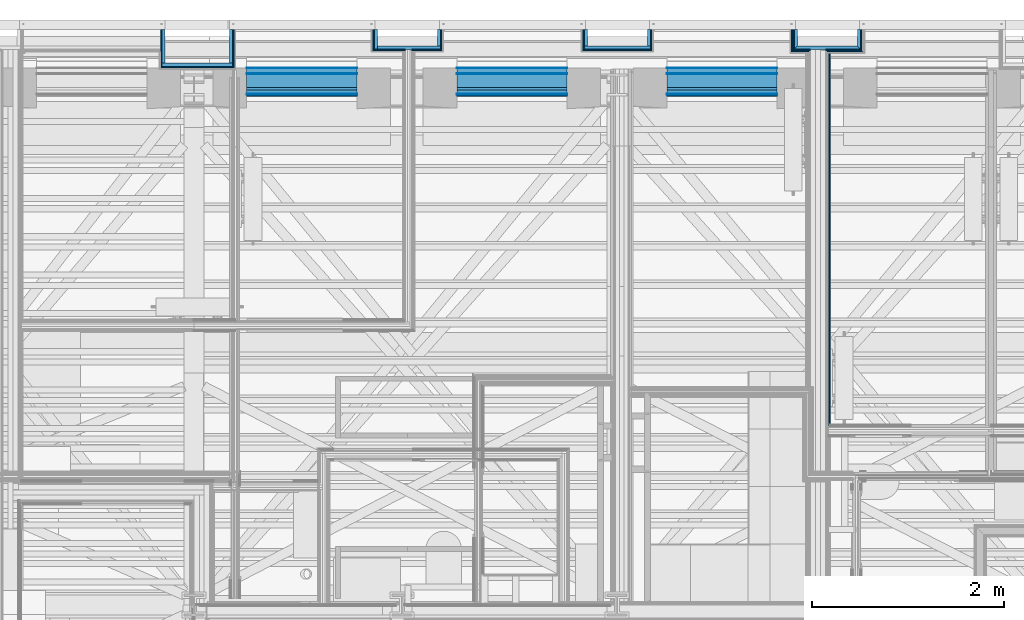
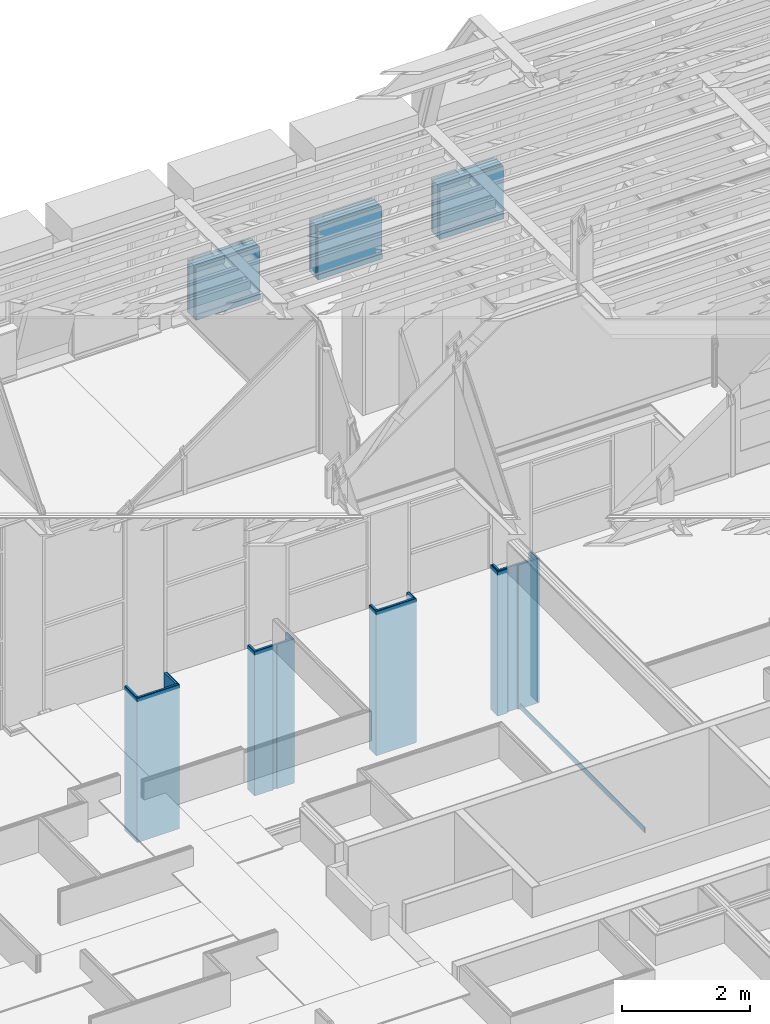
# One storey, part 48 of 183: 54 building element parts, 16 elements without a shape of their own.
"""IFC2X3 building model written with IfcOpenShell, lengths in metres."""

from ifc_helpers import new_model, entity, si_unit, converted_unit, derived_unit, money_unit, direction, frame, frame_2d, origin_with_axes, place, context, subcontext, project, spatial, polyline, rectangle, outline, extrude, material, type_object, element, aggregate, save


model = new_model("IFC2X3")

# Units and contexts
model_context = context("Model", 3, precision=1e-05, world=origin_with_axes(), true_north=direction((0.0, 1.0)))
body_context = subcontext(model_context, "Body", "Model", "MODEL_VIEW", scale=1.0)
ifc_project = project(units=[si_unit("LENGTHUNIT", "METRE"), si_unit("AREAUNIT", "SQUARE_METRE"), si_unit("VOLUMEUNIT", "CUBIC_METRE"), si_unit("ABSORBEDDOSEUNIT", "GRAY"), si_unit("AMOUNTOFSUBSTANCEUNIT", "MOLE"), si_unit("DOSEEQUIVALENTUNIT", "SIEVERT"), si_unit("ELECTRICCAPACITANCEUNIT", "FARAD"), si_unit("ELECTRICCHARGEUNIT", "COULOMB"), si_unit("ELECTRICCONDUCTANCEUNIT", "SIEMENS"), si_unit("ELECTRICCURRENTUNIT", "AMPERE"), si_unit("ELECTRICRESISTANCEUNIT", "OHM"), si_unit("ELECTRICVOLTAGEUNIT", "VOLT"), si_unit("ENERGYUNIT", "JOULE"), si_unit("FORCEUNIT", "NEWTON"), si_unit("FREQUENCYUNIT", "HERTZ"), si_unit("ILLUMINANCEUNIT", "LUX"), si_unit("INDUCTANCEUNIT", "HENRY"), si_unit("LUMINOUSFLUXUNIT", "LUMEN"), si_unit("LUMINOUSINTENSITYUNIT", "CANDELA"), si_unit("MAGNETICFLUXDENSITYUNIT", "TESLA"), si_unit("MAGNETICFLUXUNIT", "WEBER"), si_unit("MASSUNIT", "GRAM"), converted_unit("PLANEANGLEUNIT", "degree", entity("IfcReal", 0.0174532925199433), si_unit("PLANEANGLEUNIT", "RADIAN"), dimensions=[0, 0, 0, 0, 0, 0, 0]), si_unit("POWERUNIT", "WATT"), si_unit("PRESSUREUNIT", "PASCAL"), si_unit("RADIOACTIVITYUNIT", "BECQUEREL"), si_unit("SOLIDANGLEUNIT", "STERADIAN"), si_unit("THERMODYNAMICTEMPERATUREUNIT", "KELVIN"), si_unit("TIMEUNIT", "SECOND"), derived_unit("ACCELERATIONUNIT", [(si_unit("LENGTHUNIT", "METRE"), 1), (si_unit("TIMEUNIT", "SECOND"), -2)]), derived_unit("ANGULARVELOCITYUNIT", [(converted_unit("PLANEANGLEUNIT", "degree", entity("IfcReal", 0.0174532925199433), si_unit("PLANEANGLEUNIT", "RADIAN"), dimensions=[0, 0, 0, 0, 0, 0, 0]), 1), (si_unit("TIMEUNIT", "SECOND"), -1)]), derived_unit("CURVATUREUNIT", [(converted_unit("PLANEANGLEUNIT", "degree", entity("IfcReal", 0.0174532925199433), si_unit("PLANEANGLEUNIT", "RADIAN"), dimensions=[0, 0, 0, 0, 0, 0, 0]), 1), (si_unit("LENGTHUNIT", "METRE"), -1)]), derived_unit("DYNAMICVISCOSITYUNIT", [(si_unit("PRESSUREUNIT", "PASCAL"), 1), (si_unit("TIMEUNIT", "SECOND"), 1)]), derived_unit("HEATFLUXDENSITYUNIT", [(si_unit("POWERUNIT", "WATT"), 1), (si_unit("LENGTHUNIT", "METRE"), -2)]), derived_unit("HEATINGVALUEUNIT", [(si_unit("ENERGYUNIT", "JOULE"), 1), (si_unit("MASSUNIT", "GRAM"), -1)]), derived_unit("INTEGERCOUNTRATEUNIT", [(si_unit("TIMEUNIT", "SECOND"), -1)]), derived_unit("IONCONCENTRATIONUNIT", [(si_unit("MASSUNIT", "GRAM"), 1), (si_unit("VOLUMEUNIT", "CUBIC_METRE"), -1)]), derived_unit("ISOTHERMALMOISTURECAPACITYUNIT", [(si_unit("VOLUMEUNIT", "CUBIC_METRE"), 1), (si_unit("MASSUNIT", "GRAM"), -1)]), derived_unit("KINEMATICVISCOSITYUNIT", [(si_unit("AREAUNIT", "SQUARE_METRE"), 1), (si_unit("TIMEUNIT", "SECOND"), -1)]), derived_unit("LINEARFORCEUNIT", [(si_unit("FORCEUNIT", "NEWTON"), 1), (si_unit("LENGTHUNIT", "METRE"), -1)]), derived_unit("LINEARMOMENTUNIT", [(si_unit("FORCEUNIT", "NEWTON"), 1), (si_unit("LENGTHUNIT", "METRE"), -1)]), derived_unit("LINEARSTIFFNESSUNIT", [(si_unit("FORCEUNIT", "NEWTON"), 1), (si_unit("LENGTHUNIT", "METRE"), -1)]), derived_unit("LINEARVELOCITYUNIT", [(si_unit("LENGTHUNIT", "METRE"), 1), (si_unit("TIMEUNIT", "SECOND"), -1)]), derived_unit("LUMINOUSINTENSITYDISTRIBUTIONUNIT", [(si_unit("LUMINOUSINTENSITYUNIT", "CANDELA"), 1), (si_unit("LUMINOUSFLUXUNIT", "LUMEN"), -1)]), derived_unit("MASSDENSITYUNIT", [(si_unit("MASSUNIT", "GRAM"), 1), (si_unit("VOLUMEUNIT", "CUBIC_METRE"), -1)]), derived_unit("MASSFLOWRATEUNIT", [(si_unit("MASSUNIT", "GRAM"), 1), (si_unit("TIMEUNIT", "SECOND"), -1)]), derived_unit("MASSPERLENGTHUNIT", [(si_unit("MASSUNIT", "GRAM"), 1), (si_unit("LENGTHUNIT", "METRE"), -1)]), derived_unit("MODULUSOFELASTICITYUNIT", [(si_unit("FORCEUNIT", "NEWTON"), 1), (si_unit("AREAUNIT", "SQUARE_METRE"), -1)]), derived_unit("MODULUSOFLINEARSUBGRADEREACTIONUNIT", [(si_unit("FORCEUNIT", "NEWTON"), 1), (si_unit("LENGTHUNIT", "METRE"), -2)]), derived_unit("MODULUSOFROTATIONALSUBGRADEREACTIONUNIT", [(si_unit("FORCEUNIT", "NEWTON"), 1), (si_unit("LENGTHUNIT", "METRE"), 1)]), derived_unit("MODULUSOFSUBGRADEREACTIONUNIT", [(si_unit("FORCEUNIT", "NEWTON"), 1), (si_unit("VOLUMEUNIT", "CUBIC_METRE"), -1)]), derived_unit("MOISTUREDIFFUSIVITYUNIT", [(si_unit("VOLUMEUNIT", "CUBIC_METRE"), 1), (si_unit("TIMEUNIT", "SECOND"), -1)]), derived_unit("MOLECULARWEIGHTUNIT", [(si_unit("MASSUNIT", "GRAM"), 1), (si_unit("AMOUNTOFSUBSTANCEUNIT", "MOLE"), -1)]), derived_unit("PLANARFORCEUNIT", [(si_unit("FORCEUNIT", "NEWTON"), 1), (si_unit("LENGTHUNIT", "METRE"), -2)]), derived_unit("ROTATIONALFREQUENCYUNIT", [(si_unit("TIMEUNIT", "SECOND"), -1)]), derived_unit("ROTATIONALMASSUNIT", [(si_unit("MASSUNIT", "GRAM"), 1), (si_unit("LENGTHUNIT", "METRE"), 2)]), derived_unit("ROTATIONALSTIFFNESSUNIT", [(si_unit("FORCEUNIT", "NEWTON"), 1), (si_unit("LENGTHUNIT", "METRE"), 1), (converted_unit("PLANEANGLEUNIT", "degree", entity("IfcReal", 0.0174532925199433), si_unit("PLANEANGLEUNIT", "RADIAN"), dimensions=[0, 0, 0, 0, 0, 0, 0]), -1)]), derived_unit("SECTIONAREAINTEGRALUNIT", [(si_unit("LENGTHUNIT", "METRE"), 5)]), derived_unit("SECTIONMODULUSUNIT", [(si_unit("LENGTHUNIT", "METRE"), 3)]), derived_unit("SHEARMODULUSUNIT", [(si_unit("FORCEUNIT", "NEWTON"), 1), (si_unit("AREAUNIT", "SQUARE_METRE"), -1)]), derived_unit("SOUNDPOWERUNIT", [(si_unit("ENERGYUNIT", "JOULE"), 1), (si_unit("TIMEUNIT", "SECOND"), -1)]), derived_unit("SPECIFICHEATCAPACITYUNIT", [(si_unit("FORCEUNIT", "NEWTON"), 1), (si_unit("MASSUNIT", "GRAM"), -1), (si_unit("THERMODYNAMICTEMPERATUREUNIT", "KELVIN"), -1)]), derived_unit("TEMPERATUREGRADIENTUNIT", [(si_unit("THERMODYNAMICTEMPERATUREUNIT", "KELVIN"), 1), (si_unit("LENGTHUNIT", "METRE"), -1)]), derived_unit("THERMALADMITTANCEUNIT", [(si_unit("POWERUNIT", "WATT"), 1), (si_unit("AREAUNIT", "SQUARE_METRE"), -1), (si_unit("THERMODYNAMICTEMPERATUREUNIT", "KELVIN"), -1)]), derived_unit("THERMALCONDUCTANCEUNIT", [(si_unit("POWERUNIT", "WATT"), 1), (si_unit("LENGTHUNIT", "METRE"), -1), (si_unit("THERMODYNAMICTEMPERATUREUNIT", "KELVIN"), -1)]), derived_unit("THERMALEXPANSIONCOEFFICIENTUNIT", [(si_unit("THERMODYNAMICTEMPERATUREUNIT", "KELVIN"), -1)]), derived_unit("THERMALRESISTANCEUNIT", [(si_unit("AREAUNIT", "SQUARE_METRE"), 1), (si_unit("POWERUNIT", "WATT"), -1)]), derived_unit("THERMALTRANSMITTANCEUNIT", [(si_unit("POWERUNIT", "WATT"), 1), (si_unit("AREAUNIT", "SQUARE_METRE"), -1), (si_unit("THERMODYNAMICTEMPERATUREUNIT", "KELVIN"), -1)]), derived_unit("TORQUEUNIT", [(si_unit("FORCEUNIT", "NEWTON"), 1), (si_unit("LENGTHUNIT", "METRE"), 1)]), derived_unit("VAPORPERMEABILITYUNIT", [(si_unit("MASSUNIT", "GRAM"), 1), (si_unit("TIMEUNIT", "SECOND"), -1)]), derived_unit("VOLUMETRICFLOWRATEUNIT", [(si_unit("VOLUMEUNIT", "CUBIC_METRE"), 1), (si_unit("TIMEUNIT", "SECOND"), -1)]), derived_unit("WARPINGCONSTANTUNIT", [(si_unit("LENGTHUNIT", "METRE"), 6)]), derived_unit("WARPINGMOMENTUNIT", [(si_unit("FORCEUNIT", "NEWTON"), 1), (si_unit("LENGTHUNIT", "METRE"), 2)]), money_unit("GBP")], contexts=[model_context])

# Site, building, storey
site_placement = place(None, origin_with_axes())
site = spatial("IfcSite", under=ifc_project, at=site_placement, Name="Site", CompositionType="ELEMENT")
building_placement = place(site_placement, origin_with_axes())
building = spatial("IfcBuilding", under=site, at=building_placement, Name="Building01", CompositionType="ELEMENT")
storey_placement = place(building_placement, frame((0.0, 0.0, 5.15), z_axis=(0.0, 0.0, 1.0), x_axis=(1.0, 0.0, 0.0)))
storey = spatial("IfcBuildingStorey", under=building, at=storey_placement, Name="1F", CompositionType="ELEMENT", Elevation=5.15)

# Wall, building element part
wall_type_1 = type_object("IfcWallType", Name="SHE_A-Walls_Type01c_Partywall_225mm_twin_tall", PredefinedType="NOTDEFINED")
wall_1_placement = place(storey_placement, frame((15.620132, 8.82, 0.0), z_axis=(0.0, 0.0, 1.0), x_axis=(0.0, 1.0, 0.0)))
wall_1 = element("IfcWall", 1, at=wall_1_placement, inside=storey, type_object=wall_type_1, Name="1C", ObjectType="SHE_A-Walls_Type01c_Partywall_225mm_twin_tall")
ifc_material_1 = material(Name="A_BSUK_Walls_Timber")
building_element_part_1_placement = place(wall_1_placement, origin_with_axes())
building_element_part_1 = element("IfcBuildingElementPart", 2, at=building_element_part_1_placement, material=ifc_material_1, Name="2", context=body_context, shape_type="SweptSolid", body=[
    extrude(rectangle(XDim=3.887, YDim=0.015, at=frame_2d((3.7885, -0.0955), x_axis=(-1.0, 0.0))), frame((0.0, 0.0, 0.015), z_axis=(0.0, 0.0, 1.0), x_axis=(1.0, 0.0, 0.0)), (0.0, 0.0, 1.0), 0.1),
])
aggregate(wall_1, [building_element_part_1])

# Wall, building element parts
wall_type_2 = type_object("IfcWallType", Name="SHE_A-Walls_Type06f_ExternalWallInsulation_48+15mm", PredefinedType="NOTDEFINED")
wall_2_placement = place(storey_placement, frame((16.025, 14.8, 0.0), z_axis=(0.0, 0.0, 1.0), x_axis=(0.0, -1.0, 0.0)))
wall_2 = element("IfcWall", 3, at=wall_2_placement, inside=storey, type_object=wall_type_2, Name="6F", ObjectType="SHE_A-Walls_Type06f_ExternalWallInsulation_48+15mm")
ifc_material_2 = material(Name="A_BSUK_Insulation")
placement_1 = place(wall_2_placement, origin_with_axes())
building_element_part_2 = element("IfcBuildingElementPart", 4, at=placement_1, material=ifc_material_2, Name="1", context=body_context, shape_type="SweptSolid", body=[
    extrude(outline(polyline([(0.206, 0.018), (0.0, 0.018), (0.0, -0.018), (0.17, -0.018), (0.206, 0.018)])), origin_with_axes(), (0.0, 0.0, 1.0), 2.74),
])
ifc_material_3 = material(Name="A_BSUK_WallInternal_Finishes_Plasterboard")
building_element_part_3 = element("IfcBuildingElementPart", 5, at=placement_1, material=ifc_material_3, Name="2", context=body_context, shape_type="SweptSolid", body=[
    extrude(outline(polyline([(0.218, 0.03), (0.0, 0.03), (0.0, 0.018), (0.206, 0.018), (0.218, 0.03)])), origin_with_axes(), (0.0, 0.0, 1.0), 2.74),
])
aggregate(wall_2, [building_element_part_2, building_element_part_3])

wall_3_placement = place(storey_placement, frame((15.365, 14.612, 0.0), z_axis=(0.0, 0.0, 1.0), x_axis=(0.0, 1.0, 0.0)))
wall_3 = element("IfcWall", 6, at=wall_3_placement, inside=storey, type_object=wall_type_2, Name="6F", ObjectType="SHE_A-Walls_Type06f_ExternalWallInsulation_48+15mm")
placement_2 = place(wall_3_placement, origin_with_axes())
building_element_part_4 = element("IfcBuildingElementPart", 7, at=placement_2, material=ifc_material_2, Name="1", context=body_context, shape_type="SweptSolid", body=[
    extrude(outline(polyline([(-0.018, 0.018), (0.018, -0.018), (0.188, -0.018), (0.188, 0.018), (-0.018, 0.018)])), origin_with_axes(), (0.0, 0.0, 1.0), 2.74),
])
building_element_part_5 = element("IfcBuildingElementPart", 8, at=placement_2, material=ifc_material_3, Name="2", context=body_context, shape_type="SweptSolid", body=[
    extrude(outline(polyline([(-0.03, 0.03), (-0.018, 0.018), (0.188, 0.018), (0.188, 0.03), (-0.03, 0.03)])), origin_with_axes(), (0.0, 0.0, 1.0), 2.74),
])
building_element_part_6 = element("IfcBuildingElementPart", 9, at=placement_2, material=ifc_material_3, Name="3", context=body_context, shape_type="SweptSolid", body=[
    extrude(outline(polyline([(-0.045, 0.045), (-0.03, 0.03), (0.188, 0.03), (0.188, 0.045), (-0.045, 0.045)])), origin_with_axes(), (0.0, 0.0, 1.0), 2.74),
])
aggregate(wall_3, [building_element_part_4, building_element_part_5, building_element_part_6])

wall_4_placement = place(storey_placement, frame((16.025, 14.612, 0.0), z_axis=(0.0, 0.0, 1.0), x_axis=(-1.0, 0.0, 0.0)))
wall_4 = element("IfcWall", 10, at=wall_4_placement, inside=storey, type_object=wall_type_2, Name="6F", ObjectType="SHE_A-Walls_Type06f_ExternalWallInsulation_48+15mm")
placement_3 = place(wall_4_placement, origin_with_axes())
building_element_part_7 = element("IfcBuildingElementPart", 11, at=placement_3, material=ifc_material_2, Name="1", context=body_context, shape_type="SweptSolid", body=[
    extrude(outline(polyline([(0.678, 0.018), (-0.018, 0.018), (0.018, -0.018), (0.642, -0.018), (0.678, 0.018)])), origin_with_axes(), (0.0, 0.0, 1.0), 2.74),
])
building_element_part_8 = element("IfcBuildingElementPart", 12, at=placement_3, material=ifc_material_3, Name="2", context=body_context, shape_type="SweptSolid", body=[
    extrude(outline(polyline([(-0.03, 0.03), (-0.018, 0.018), (0.346868, 0.018), (0.346868, 0.03), (-0.03, 0.03)])), origin_with_axes(), (0.0, 0.0, 1.0), 2.74),
])
building_element_part_9 = element("IfcBuildingElementPart", 13, at=placement_3, material=ifc_material_3, Name="3", context=body_context, shape_type="SweptSolid", body=[
    extrude(outline(polyline([(0.69, 0.03), (0.511868, 0.03), (0.511868, 0.018), (0.678, 0.018), (0.69, 0.03)])), origin_with_axes(), (0.0, 0.0, 1.0), 2.74),
])
building_element_part_10 = element("IfcBuildingElementPart", 14, at=placement_3, material=ifc_material_3, Name="4", context=body_context, shape_type="SweptSolid", body=[
    extrude(outline(polyline([(-0.045, 0.045), (-0.03, 0.03), (0.331868, 0.03), (0.331868, 0.045), (-0.045, 0.045)])), origin_with_axes(), (0.0, 0.0, 1.0), 2.74),
])
building_element_part_11 = element("IfcBuildingElementPart", 15, at=placement_3, material=ifc_material_3, Name="5", context=body_context, shape_type="SweptSolid", body=[
    extrude(outline(polyline([(0.705, 0.045), (0.526868, 0.045), (0.526868, 0.03), (0.69, 0.03), (0.705, 0.045)])), origin_with_axes(), (0.0, 0.0, 1.0), 2.74),
])
aggregate(wall_4, [building_element_part_7, building_element_part_8, building_element_part_9, building_element_part_10, building_element_part_11])

wall_type_3 = type_object("IfcWallType", Name="SHE_A-Walls_Type06d_ExternalWallInsulation_48mm", PredefinedType="NOTDEFINED")
wall_5_placement = place(storey_placement, frame((13.817, 14.8, 0.0), z_axis=(0.0, 0.0, 1.0), x_axis=(0.0, -1.0, 0.0)))
wall_5 = element("IfcWall", 16, at=wall_5_placement, inside=storey, type_object=wall_type_3, Name="6D", ObjectType="SHE_A-Walls_Type06d_ExternalWallInsulation_48mm")
placement_4 = place(wall_5_placement, origin_with_axes())
building_element_part_12 = element("IfcBuildingElementPart", 17, at=placement_4, material=ifc_material_2, Name="1", context=body_context, shape_type="SweptSolid", body=[
    extrude(rectangle(XDim=0.17, YDim=0.036, at=frame_2d((0.085, 0.018), x_axis=(-1.0, 0.0))), origin_with_axes(), (0.0, 0.0, 1.0), 2.74),
])
building_element_part_13 = element("IfcBuildingElementPart", 18, at=placement_4, material=ifc_material_3, Name="2", context=body_context, shape_type="SweptSolid", body=[
    extrude(outline(polyline([(0.218, 0.048), (0.0, 0.048), (0.0, 0.035), (0.205, 0.035), (0.218, 0.048)])), origin_with_axes(), (0.0, 0.0, 1.0), 2.74),
])
aggregate(wall_5, [building_element_part_12, building_element_part_13])

wall_6_placement = place(storey_placement, frame((13.853, 14.63, 0.0), z_axis=(0.0, 0.0, 1.0), x_axis=(-1.0, 0.0, 0.0)))
wall_6 = element("IfcWall", 19, at=wall_6_placement, inside=storey, type_object=wall_type_3, Name="6D", ObjectType="SHE_A-Walls_Type06d_ExternalWallInsulation_48mm")
placement_5 = place(wall_6_placement, origin_with_axes())
building_element_part_14 = element("IfcBuildingElementPart", 20, at=placement_5, material=ifc_material_2, Name="1", context=body_context, shape_type="SweptSolid", body=[
    extrude(rectangle(XDim=0.696, YDim=0.036, at=frame_2d((0.348, 0.018), x_axis=(-1.0, 0.0))), origin_with_axes(), (0.0, 0.0, 1.0), 2.74),
])
building_element_part_15 = element("IfcBuildingElementPart", 21, at=placement_5, material=ifc_material_3, Name="2", context=body_context, shape_type="SweptSolid", body=[
    extrude(outline(polyline([(0.708, 0.048), (-0.012, 0.048), (0.001, 0.035), (0.695, 0.035), (0.708, 0.048)])), origin_with_axes(), (0.0, 0.0, 1.0), 2.74),
])
aggregate(wall_6, [building_element_part_14, building_element_part_15])

wall_7_placement = place(storey_placement, frame((13.193, 14.63, 0.0), z_axis=(0.0, 0.0, 1.0), x_axis=(0.0, 1.0, 0.0)))
wall_7 = element("IfcWall", 22, at=wall_7_placement, inside=storey, type_object=wall_type_3, Name="6D", ObjectType="SHE_A-Walls_Type06d_ExternalWallInsulation_48mm")
placement_6 = place(wall_7_placement, origin_with_axes())
building_element_part_16 = element("IfcBuildingElementPart", 23, at=placement_6, material=ifc_material_2, Name="1", context=body_context, shape_type="SweptSolid", body=[
    extrude(rectangle(XDim=0.17, YDim=0.036, at=frame_2d((0.085, 0.018), x_axis=(-1.0, 0.0))), origin_with_axes(), (0.0, 0.0, 1.0), 2.74),
])
building_element_part_17 = element("IfcBuildingElementPart", 24, at=placement_6, material=ifc_material_3, Name="2", context=body_context, shape_type="SweptSolid", body=[
    extrude(outline(polyline([(0.17, 0.048), (-0.048, 0.048), (-0.035, 0.035), (0.17, 0.035), (0.17, 0.048)])), origin_with_axes(), (0.0, 0.0, 1.0), 2.74),
])
aggregate(wall_7, [building_element_part_16, building_element_part_17])

wall_8_placement = place(storey_placement, frame((11.627, 14.8, 0.0), z_axis=(0.0, 0.0, 1.0), x_axis=(0.0, -1.0, 0.0)))
wall_8 = element("IfcWall", 25, at=wall_8_placement, inside=storey, type_object=wall_type_3, Name="6D", ObjectType="SHE_A-Walls_Type06d_ExternalWallInsulation_48mm")
placement_7 = place(wall_8_placement, origin_with_axes())
building_element_part_18 = element("IfcBuildingElementPart", 26, at=placement_7, material=ifc_material_2, Name="1", context=body_context, shape_type="SweptSolid", body=[
    extrude(rectangle(XDim=0.17, YDim=0.036, at=frame_2d((0.085, 0.018), x_axis=(-1.0, 0.0))), origin_with_axes(), (0.0, 0.0, 1.0), 2.74),
])
building_element_part_19 = element("IfcBuildingElementPart", 27, at=placement_7, material=ifc_material_3, Name="2", context=body_context, shape_type="SweptSolid", body=[
    extrude(outline(polyline([(0.218, 0.048), (0.0, 0.048), (0.0, 0.035), (0.205, 0.035), (0.218, 0.048)])), origin_with_axes(), (0.0, 0.0, 1.0), 2.74),
])
aggregate(wall_8, [building_element_part_18, building_element_part_19])

wall_9_placement = place(storey_placement, frame((11.663, 14.63, 0.0), z_axis=(0.0, 0.0, 1.0), x_axis=(-1.0, 0.0, 0.0)))
wall_9 = element("IfcWall", 28, at=wall_9_placement, inside=storey, type_object=wall_type_3, Name="6D", ObjectType="SHE_A-Walls_Type06d_ExternalWallInsulation_48mm")
placement_8 = place(wall_9_placement, origin_with_axes())
building_element_part_20 = element("IfcBuildingElementPart", 29, at=placement_8, material=ifc_material_2, Name="1", context=body_context, shape_type="SweptSolid", body=[
    extrude(rectangle(XDim=0.66, YDim=0.036, at=frame_2d((0.33, 0.018), x_axis=(-1.0, 0.0))), origin_with_axes(), (0.0, 0.0, 1.0), 2.74),
])
building_element_part_21 = element("IfcBuildingElementPart", 30, at=placement_8, material=ifc_material_3, Name="2", context=body_context, shape_type="SweptSolid", body=[
    extrude(outline(polyline([(0.3, 0.048), (-0.012, 0.048), (0.001, 0.035), (0.3, 0.035), (0.3, 0.048)])), origin_with_axes(), (0.0, 0.0, 1.0), 2.74),
])
building_element_part_22 = element("IfcBuildingElementPart", 31, at=placement_8, material=ifc_material_3, Name="3", context=body_context, shape_type="SweptSolid", body=[
    extrude(outline(polyline([(0.708, 0.048), (0.371, 0.048), (0.371, 0.035), (0.695, 0.035), (0.708, 0.048)])), origin_with_axes(), (0.0, 0.0, 1.0), 2.74),
])
aggregate(wall_9, [building_element_part_20, building_element_part_21, building_element_part_22])

wall_10_placement = place(storey_placement, frame((11.003, 14.8, 0.0), z_axis=(0.0, 0.0, 1.0), x_axis=(0.0, -1.0, 0.0)))
wall_10 = element("IfcWall", 32, at=wall_10_placement, inside=storey, type_object=wall_type_3, Name="6D", ObjectType="SHE_A-Walls_Type06d_ExternalWallInsulation_48mm")
placement_9 = place(wall_10_placement, origin_with_axes())
building_element_part_23 = element("IfcBuildingElementPart", 33, at=placement_9, material=ifc_material_3, Name="2", context=body_context, shape_type="SweptSolid", body=[
    extrude(outline(polyline([(0.205, -0.035), (0.0, -0.035), (0.0, -0.048), (0.218, -0.048), (0.205, -0.035)])), origin_with_axes(), (0.0, 0.0, 1.0), 2.74),
])
building_element_part_24 = element("IfcBuildingElementPart", 34, at=placement_9, material=ifc_material_2, Name="3", context=body_context, shape_type="SweptSolid", body=[
    extrude(rectangle(XDim=0.206, YDim=0.036, at=frame_2d((0.103, -0.018), x_axis=(-1.0, 0.0))), origin_with_axes(), (0.0, 0.0, 1.0), 2.74),
])
aggregate(wall_10, [building_element_part_23, building_element_part_24])

wall_11_placement = place(storey_placement, frame((9.46, 14.8, 0.0), z_axis=(0.0, 0.0, 1.0), x_axis=(0.0, -1.0, 0.0)))
wall_11 = element("IfcWall", 35, at=wall_11_placement, inside=storey, type_object=wall_type_3, Name="6D", ObjectType="SHE_A-Walls_Type06d_ExternalWallInsulation_48mm")
placement_10 = place(wall_11_placement, origin_with_axes())
building_element_part_25 = element("IfcBuildingElementPart", 36, at=placement_10, material=ifc_material_2, Name="1", context=body_context, shape_type="SweptSolid", body=[
    extrude(rectangle(XDim=0.35, YDim=0.036, at=frame_2d((0.175, 0.018), x_axis=(-1.0, 0.0))), origin_with_axes(), (0.0, 0.0, 1.0), 2.74),
])
building_element_part_26 = element("IfcBuildingElementPart", 37, at=placement_10, material=ifc_material_3, Name="2", context=body_context, shape_type="SweptSolid", body=[
    extrude(outline(polyline([(0.398, 0.048), (0.0, 0.048), (0.0, 0.035), (0.385, 0.035), (0.398, 0.048)])), origin_with_axes(), (0.0, 0.0, 1.0), 2.74),
])
aggregate(wall_11, [building_element_part_25, building_element_part_26])

wall_12_placement = place(storey_placement, frame((9.496, 14.45, 0.0), z_axis=(0.0, 0.0, 1.0), x_axis=(-1.0, 0.0, 0.0)))
wall_12 = element("IfcWall", 38, at=wall_12_placement, inside=storey, type_object=wall_type_3, Name="6D", ObjectType="SHE_A-Walls_Type06d_ExternalWallInsulation_48mm")
placement_11 = place(wall_12_placement, origin_with_axes())
building_element_part_27 = element("IfcBuildingElementPart", 39, at=placement_11, material=ifc_material_2, Name="1", context=body_context, shape_type="SweptSolid", body=[
    extrude(rectangle(XDim=0.742, YDim=0.036, at=frame_2d((0.371, 0.018), x_axis=(-1.0, 0.0))), origin_with_axes(), (0.0, 0.0, 1.0), 2.74),
])
building_element_part_28 = element("IfcBuildingElementPart", 40, at=placement_11, material=ifc_material_3, Name="2", context=body_context, shape_type="SweptSolid", body=[
    extrude(outline(polyline([(0.754, 0.048), (-0.012, 0.048), (0.001, 0.035), (0.741, 0.035), (0.754, 0.048)])), origin_with_axes(), (0.0, 0.0, 1.0), 2.74),
])
aggregate(wall_12, [building_element_part_27, building_element_part_28])

wall_13_placement = place(storey_placement, frame((8.79, 14.45, 0.0), z_axis=(0.0, 0.0, 1.0), x_axis=(0.0, 1.0, 0.0)))
wall_13 = element("IfcWall", 41, at=wall_13_placement, inside=storey, type_object=wall_type_3, Name="6D", ObjectType="SHE_A-Walls_Type06d_ExternalWallInsulation_48mm")
placement_12 = place(wall_13_placement, origin_with_axes())
building_element_part_29 = element("IfcBuildingElementPart", 42, at=placement_12, material=ifc_material_2, Name="1", context=body_context, shape_type="SweptSolid", body=[
    extrude(rectangle(XDim=0.35, YDim=0.036, at=frame_2d((0.175, 0.018), x_axis=(-1.0, 0.0))), origin_with_axes(), (0.0, 0.0, 1.0), 2.74),
])
building_element_part_30 = element("IfcBuildingElementPart", 43, at=placement_12, material=ifc_material_3, Name="2", context=body_context, shape_type="SweptSolid", body=[
    extrude(outline(polyline([(0.35, 0.048), (-0.048, 0.048), (-0.035, 0.035), (0.35, 0.035), (0.35, 0.048)])), origin_with_axes(), (0.0, 0.0, 1.0), 2.74),
])
aggregate(wall_13, [building_element_part_29, building_element_part_30])

wall_type_4 = type_object("IfcWallType", Name="SHE_A-Walls_Type06e_ExternalWallPenthouse_280mm", PredefinedType="NOTDEFINED")
wall_14_placement = place(storey_placement, frame((14.020024, 14.335061, 9.78), z_axis=(0.0, 0.0, 1.0), x_axis=(1.0, 0.0, 0.0)))
wall_14 = element("IfcWall", 44, at=wall_14_placement, inside=storey, type_object=wall_type_4, Name="6E", ObjectType="SHE_A-Walls_Type06e_ExternalWallPenthouse_280mm")
placement_13 = place(wall_14_placement, origin_with_axes())
building_element_part_31 = element("IfcBuildingElementPart", 45, at=placement_13, material=ifc_material_1, Name="1", context=body_context, shape_type="SweptSolid", body=[
    extrude(rectangle(XDim=1.149951, YDim=0.015, at=frame_2d((0.574976, -0.2225), x_axis=(-1.0, 0.0))), frame((0.0, 0.0, 0.015), z_axis=(0.0, 0.0, 1.0), x_axis=(1.0, 0.0, 0.0)), (0.0, 0.0, 1.0), 0.1),
])
building_element_part_32 = element("IfcBuildingElementPart", 46, at=placement_13, material=ifc_material_3, Name="2", context=body_context, shape_type="SweptSolid", body=[
    extrude(rectangle(XDim=1.149951, YDim=0.01, at=frame_2d((0.574976, -0.21), x_axis=(-1.0, 0.0))), origin_with_axes(), (0.0, 0.0, 1.0), 1.0),
])
building_element_part_33 = element("IfcBuildingElementPart", 47, at=placement_13, material=ifc_material_2, Name="3", context=body_context, shape_type="SweptSolid", body=[
    extrude(rectangle(XDim=1.149951, YDim=0.04, at=frame_2d((0.574976, -0.185), x_axis=(-1.0, 0.0))), origin_with_axes(), (0.0, 0.0, 1.0), 1.0),
])
ifc_material_4 = material(Name="Air Cavity")
building_element_part_34 = element("IfcBuildingElementPart", 48, at=placement_13, material=ifc_material_4, Name="4", context=body_context, shape_type="SweptSolid", body=[
    extrude(rectangle(XDim=1.149951, YDim=0.025, at=frame_2d((0.574976, -0.1525), x_axis=(-1.0, 0.0))), origin_with_axes(), (0.0, 0.0, 1.0), 1.0),
])
building_element_part_35 = element("IfcBuildingElementPart", 49, at=placement_13, material=ifc_material_2, Name="5", context=body_context, shape_type="SweptSolid", body=[
    extrude(rectangle(XDim=1.149951, YDim=0.14, at=frame_2d((0.574976, -0.07), x_axis=(-1.0, 0.0))), origin_with_axes(), (0.0, 0.0, 1.0), 1.0),
])
building_element_part_36 = element("IfcBuildingElementPart", 50, at=placement_13, material=ifc_material_1, Name="6", context=body_context, shape_type="SweptSolid", body=[
    extrude(rectangle(XDim=1.149951, YDim=0.01, at=frame_2d((0.574976, 0.005), x_axis=(-1.0, 0.0))), origin_with_axes(), (0.0, 0.0, 1.0), 1.0),
])
building_element_part_37 = element("IfcBuildingElementPart", 51, at=placement_13, material=ifc_material_4, Name="7", context=body_context, shape_type="SweptSolid", body=[
    extrude(rectangle(XDim=1.149951, YDim=0.05, at=frame_2d((0.574976, 0.035), x_axis=(-1.0, 0.0))), origin_with_axes(), (0.0, 0.0, 1.0), 1.0),
])
ifc_material_5 = material(Name="A_BSUK_WallInternal_Finishes_Metal")
building_element_part_38 = element("IfcBuildingElementPart", 52, at=placement_13, material=ifc_material_5, Name="8", context=body_context, shape_type="SweptSolid", body=[
    extrude(rectangle(XDim=1.149951, YDim=0.005, at=frame_2d((0.574976, 0.0625), x_axis=(-1.0, 0.0))), origin_with_axes(), (0.0, 0.0, 1.0), 1.0),
])
aggregate(wall_14, [building_element_part_31, building_element_part_32, building_element_part_33, building_element_part_34, building_element_part_35, building_element_part_36, building_element_part_37, building_element_part_38])

wall_15_placement = place(storey_placement, frame((11.830024, 14.335061, 9.78), z_axis=(0.0, 0.0, 1.0), x_axis=(1.0, 0.0, 0.0)))
wall_15 = element("IfcWall", 53, at=wall_15_placement, inside=storey, type_object=wall_type_4, Name="6E", ObjectType="SHE_A-Walls_Type06e_ExternalWallPenthouse_280mm")
placement_14 = place(wall_15_placement, origin_with_axes())
building_element_part_39 = element("IfcBuildingElementPart", 54, at=placement_14, material=ifc_material_1, Name="1", context=body_context, shape_type="SweptSolid", body=[
    extrude(rectangle(XDim=1.149951, YDim=0.015, at=frame_2d((0.574976, -0.2225), x_axis=(-1.0, 0.0))), frame((0.0, 0.0, 0.015), z_axis=(0.0, 0.0, 1.0), x_axis=(1.0, 0.0, 0.0)), (0.0, 0.0, 1.0), 0.1),
])
building_element_part_40 = element("IfcBuildingElementPart", 55, at=placement_14, material=ifc_material_3, Name="2", context=body_context, shape_type="SweptSolid", body=[
    extrude(rectangle(XDim=1.149951, YDim=0.01, at=frame_2d((0.574976, -0.21), x_axis=(-1.0, 0.0))), origin_with_axes(), (0.0, 0.0, 1.0), 1.0),
])
building_element_part_41 = element("IfcBuildingElementPart", 56, at=placement_14, material=ifc_material_2, Name="3", context=body_context, shape_type="SweptSolid", body=[
    extrude(rectangle(XDim=1.149951, YDim=0.04, at=frame_2d((0.574976, -0.185), x_axis=(-1.0, 0.0))), origin_with_axes(), (0.0, 0.0, 1.0), 1.0),
])
building_element_part_42 = element("IfcBuildingElementPart", 57, at=placement_14, material=ifc_material_4, Name="4", context=body_context, shape_type="SweptSolid", body=[
    extrude(rectangle(XDim=1.149951, YDim=0.025, at=frame_2d((0.574976, -0.1525), x_axis=(-1.0, 0.0))), origin_with_axes(), (0.0, 0.0, 1.0), 1.0),
])
building_element_part_43 = element("IfcBuildingElementPart", 58, at=placement_14, material=ifc_material_2, Name="5", context=body_context, shape_type="SweptSolid", body=[
    extrude(rectangle(XDim=1.149951, YDim=0.14, at=frame_2d((0.574976, -0.07), x_axis=(-1.0, 0.0))), origin_with_axes(), (0.0, 0.0, 1.0), 1.0),
])
building_element_part_44 = element("IfcBuildingElementPart", 59, at=placement_14, material=ifc_material_1, Name="6", context=body_context, shape_type="SweptSolid", body=[
    extrude(rectangle(XDim=1.149951, YDim=0.01, at=frame_2d((0.574976, 0.005), x_axis=(-1.0, 0.0))), origin_with_axes(), (0.0, 0.0, 1.0), 1.0),
])
building_element_part_45 = element("IfcBuildingElementPart", 60, at=placement_14, material=ifc_material_4, Name="7", context=body_context, shape_type="SweptSolid", body=[
    extrude(rectangle(XDim=1.149951, YDim=0.05, at=frame_2d((0.574976, 0.035), x_axis=(-1.0, 0.0))), origin_with_axes(), (0.0, 0.0, 1.0), 1.0),
])
building_element_part_46 = element("IfcBuildingElementPart", 61, at=placement_14, material=ifc_material_5, Name="8", context=body_context, shape_type="SweptSolid", body=[
    extrude(rectangle(XDim=1.149951, YDim=0.005, at=frame_2d((0.574976, 0.0625), x_axis=(-1.0, 0.0))), origin_with_axes(), (0.0, 0.0, 1.0), 1.0),
])
aggregate(wall_15, [building_element_part_39, building_element_part_40, building_element_part_41, building_element_part_42, building_element_part_43, building_element_part_44, building_element_part_45, building_element_part_46])

wall_16_placement = place(storey_placement, frame((9.640024, 14.335061, 9.78), z_axis=(0.0, 0.0, 1.0), x_axis=(1.0, 0.0, 0.0)))
wall_16 = element("IfcWall", 62, at=wall_16_placement, inside=storey, type_object=wall_type_4, Name="6E", ObjectType="SHE_A-Walls_Type06e_ExternalWallPenthouse_280mm")
placement_15 = place(wall_16_placement, origin_with_axes())
building_element_part_47 = element("IfcBuildingElementPart", 63, at=placement_15, material=ifc_material_1, Name="1", context=body_context, shape_type="SweptSolid", body=[
    extrude(rectangle(XDim=1.149951, YDim=0.015, at=frame_2d((0.574976, -0.2225), x_axis=(-1.0, 0.0))), frame((0.0, 0.0, 0.015), z_axis=(0.0, 0.0, 1.0), x_axis=(1.0, 0.0, 0.0)), (0.0, 0.0, 1.0), 0.1),
])
building_element_part_48 = element("IfcBuildingElementPart", 64, at=placement_15, material=ifc_material_3, Name="2", context=body_context, shape_type="SweptSolid", body=[
    extrude(rectangle(XDim=1.149951, YDim=0.01, at=frame_2d((0.574976, -0.21), x_axis=(-1.0, 0.0))), origin_with_axes(), (0.0, 0.0, 1.0), 1.0),
])
building_element_part_49 = element("IfcBuildingElementPart", 65, at=placement_15, material=ifc_material_2, Name="3", context=body_context, shape_type="SweptSolid", body=[
    extrude(rectangle(XDim=1.149951, YDim=0.04, at=frame_2d((0.574976, -0.185), x_axis=(-1.0, 0.0))), origin_with_axes(), (0.0, 0.0, 1.0), 1.0),
])
building_element_part_50 = element("IfcBuildingElementPart", 66, at=placement_15, material=ifc_material_4, Name="4", context=body_context, shape_type="SweptSolid", body=[
    extrude(rectangle(XDim=1.149951, YDim=0.025, at=frame_2d((0.574976, -0.1525), x_axis=(-1.0, 0.0))), origin_with_axes(), (0.0, 0.0, 1.0), 1.0),
])
building_element_part_51 = element("IfcBuildingElementPart", 67, at=placement_15, material=ifc_material_2, Name="5", context=body_context, shape_type="SweptSolid", body=[
    extrude(rectangle(XDim=1.149951, YDim=0.14, at=frame_2d((0.574976, -0.07), x_axis=(-1.0, 0.0))), origin_with_axes(), (0.0, 0.0, 1.0), 1.0),
])
building_element_part_52 = element("IfcBuildingElementPart", 68, at=placement_15, material=ifc_material_1, Name="6", context=body_context, shape_type="SweptSolid", body=[
    extrude(rectangle(XDim=1.149951, YDim=0.01, at=frame_2d((0.574976, 0.005), x_axis=(-1.0, 0.0))), origin_with_axes(), (0.0, 0.0, 1.0), 1.0),
])
building_element_part_53 = element("IfcBuildingElementPart", 69, at=placement_15, material=ifc_material_4, Name="7", context=body_context, shape_type="SweptSolid", body=[
    extrude(rectangle(XDim=1.149951, YDim=0.05, at=frame_2d((0.574976, 0.035), x_axis=(-1.0, 0.0))), origin_with_axes(), (0.0, 0.0, 1.0), 1.0),
])
building_element_part_54 = element("IfcBuildingElementPart", 70, at=placement_15, material=ifc_material_5, Name="8", context=body_context, shape_type="SweptSolid", body=[
    extrude(rectangle(XDim=1.149951, YDim=0.005, at=frame_2d((0.574976, 0.0625), x_axis=(-1.0, 0.0))), origin_with_axes(), (0.0, 0.0, 1.0), 1.0),
])
aggregate(wall_16, [building_element_part_47, building_element_part_48, building_element_part_49, building_element_part_50, building_element_part_51, building_element_part_52, building_element_part_53, building_element_part_54])

save(model, "model.ifc")
